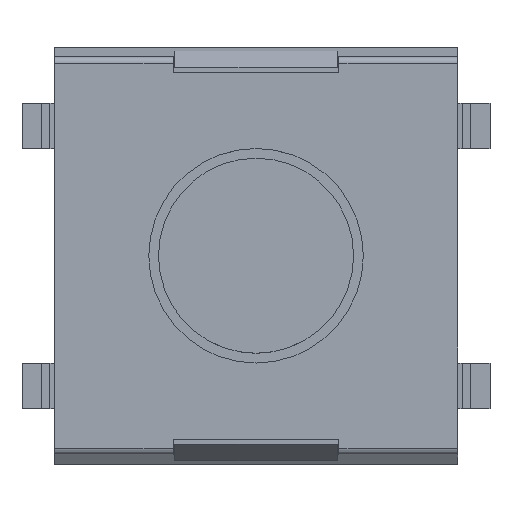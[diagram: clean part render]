
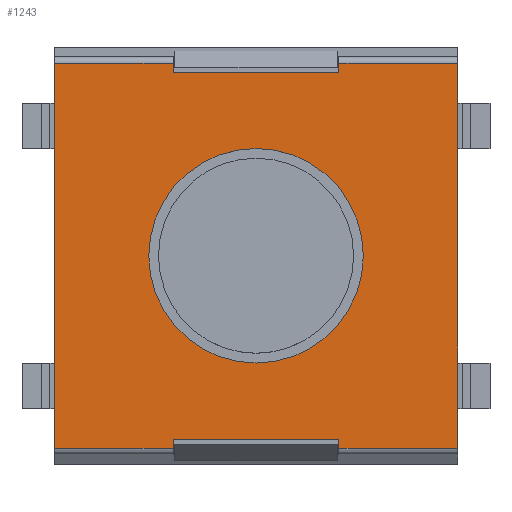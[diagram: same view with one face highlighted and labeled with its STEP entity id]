
A CAD part, top view. The second image highlights one B-rep face of the part: STEP entity #1243.
In plain terms, the highlighted planar face has unit normal (0, 0, 1).
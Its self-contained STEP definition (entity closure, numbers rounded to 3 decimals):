
#8 = CARTESIAN_POINT ( 'NONE',  ( -26.561, 15.86, 1.05 ) ) ;
#39 = EDGE_CURVE ( 'NONE', #3989, #1920, #5464, .T. ) ;
#62 = DIRECTION ( 'NONE',  ( 1., 0., 0. ) ) ;
#116 = LINE ( 'NONE', #456, #4683 ) ;
#150 = DIRECTION ( 'NONE',  ( 0., -1., 0. ) ) ;
#186 = LINE ( 'NONE', #4349, #4623 ) ;
#221 = CARTESIAN_POINT ( 'NONE',  ( -29.111, 15.86, 1.05 ) ) ;
#333 = DIRECTION ( 'NONE',  ( 0., 1., 0. ) ) ;
#356 = LINE ( 'NONE', #1671, #5406 ) ;
#416 = DIRECTION ( 'NONE',  ( 0., 1., 0. ) ) ;
#456 = CARTESIAN_POINT ( 'NONE',  ( -26.561, 9.939, 1.05 ) ) ;
#475 = ORIENTED_EDGE ( 'NONE', *, *, #4583, .F. ) ;
#508 = CIRCLE ( 'NONE', #2862, 1.65 ) ;
#558 = CARTESIAN_POINT ( 'NONE',  ( -27.836, 14.55, 1.05 ) ) ;
#564 = VERTEX_POINT ( 'NONE', #4523 ) ;
#584 = DIRECTION ( 'NONE',  ( -1., 0., 0. ) ) ;
#590 = FACE_OUTER_BOUND ( 'NONE', #2131, .T. ) ;
#599 = VECTOR ( 'NONE', #1996, 1000. ) ;
#605 = ORIENTED_EDGE ( 'NONE', *, *, #1647, .F. ) ;
#711 = EDGE_CURVE ( 'NONE', #1772, #3989, #4094, .T. ) ;
#721 = EDGE_CURVE ( 'NONE', #564, #5762, #186, .T. ) ;
#747 = CARTESIAN_POINT ( 'NONE',  ( -26.561, 10.079, 1.05 ) ) ;
#1023 = EDGE_CURVE ( 'NONE', #3478, #1541, #4011, .T. ) ;
#1152 = ORIENTED_EDGE ( 'NONE', *, *, #2480, .F. ) ;
#1229 = CARTESIAN_POINT ( 'NONE',  ( -30.936, 9.939, 1.05 ) ) ;
#1243 = ADVANCED_FACE ( 'NONE', ( #1820, #590 ), #5261, .F. ) ;
#1285 = EDGE_LOOP ( 'NONE', ( #3562, #2771 ) ) ;
#1313 = VECTOR ( 'NONE', #5319, 1000. ) ;
#1485 = EDGE_CURVE ( 'NONE', #1920, #4025, #4673, .T. ) ;
#1490 = ORIENTED_EDGE ( 'NONE', *, *, #2225, .F. ) ;
#1541 = VERTEX_POINT ( 'NONE', #4946 ) ;
#1561 = CARTESIAN_POINT ( 'NONE',  ( -30.936, 9.939, 1.05 ) ) ;
#1647 = EDGE_CURVE ( 'NONE', #3050, #3683, #2418, .T. ) ;
#1671 = CARTESIAN_POINT ( 'NONE',  ( -29.111, 9.939, 1.05 ) ) ;
#1772 = VERTEX_POINT ( 'NONE', #2053 ) ;
#1781 = DIRECTION ( 'NONE',  ( 0., 0., 1. ) ) ;
#1820 = FACE_BOUND ( 'NONE', #1285, .T. ) ;
#1835 = DIRECTION ( 'NONE',  ( 0., -1., 0. ) ) ;
#1915 = VERTEX_POINT ( 'NONE', #5676 ) ;
#1920 = VERTEX_POINT ( 'NONE', #2584 ) ;
#1963 = DIRECTION ( 'NONE',  ( 0., 0., 1. ) ) ;
#1996 = DIRECTION ( 'NONE',  ( 0., -1., 0. ) ) ;
#2037 = ORIENTED_EDGE ( 'NONE', *, *, #4828, .F. ) ;
#2039 = VECTOR ( 'NONE', #4793, 1000. ) ;
#2053 = CARTESIAN_POINT ( 'NONE',  ( -29.111, 9.939, 1.05 ) ) ;
#2118 = VECTOR ( 'NONE', #584, 1000. ) ;
#2131 = EDGE_LOOP ( 'NONE', ( #475, #2037, #605, #2520, #5711, #1490, #2583, #3982, #5117, #3472, #1152, #5596 ) ) ;
#2134 = VERTEX_POINT ( 'NONE', #3342 ) ;
#2143 = VERTEX_POINT ( 'NONE', #5629 ) ;
#2213 = DIRECTION ( 'NONE',  ( 0., -1., 0. ) ) ;
#2225 = EDGE_CURVE ( 'NONE', #4025, #2143, #356, .T. ) ;
#2283 = EDGE_CURVE ( 'NONE', #2143, #1915, #3630, .T. ) ;
#2346 = VECTOR ( 'NONE', #1835, 1000. ) ;
#2418 = LINE ( 'NONE', #5556, #3790 ) ;
#2467 = AXIS2_PLACEMENT_3D ( 'NONE', #2557, #5705, #2924 ) ;
#2480 = EDGE_CURVE ( 'NONE', #5762, #3444, #3298, .T. ) ;
#2520 = ORIENTED_EDGE ( 'NONE', *, *, #4984, .F. ) ;
#2554 = LINE ( 'NONE', #4924, #2346 ) ;
#2557 = CARTESIAN_POINT ( 'NONE',  ( -30.936, 9.939, 1.05 ) ) ;
#2583 = ORIENTED_EDGE ( 'NONE', *, *, #1485, .F. ) ;
#2584 = CARTESIAN_POINT ( 'NONE',  ( -30.936, 15.86, 1.05 ) ) ;
#2591 = CARTESIAN_POINT ( 'NONE',  ( -30.936, 15.72, 1.05 ) ) ;
#2689 = EDGE_CURVE ( 'NONE', #3444, #1772, #2554, .T. ) ;
#2739 = CARTESIAN_POINT ( 'NONE',  ( -30.936, 9.939, 1.05 ) ) ;
#2771 = ORIENTED_EDGE ( 'NONE', *, *, #1023, .F. ) ;
#2812 = DIRECTION ( 'NONE',  ( 1., 0., 0. ) ) ;
#2862 = AXIS2_PLACEMENT_3D ( 'NONE', #4476, #1781, #2213 ) ;
#2894 = LINE ( 'NONE', #4191, #599 ) ;
#2924 = DIRECTION ( 'NONE',  ( 0., 1., 0. ) ) ;
#3050 = VERTEX_POINT ( 'NONE', #8 ) ;
#3298 = LINE ( 'NONE', #3842, #5079 ) ;
#3342 = CARTESIAN_POINT ( 'NONE',  ( -24.736, 9.939, 1.05 ) ) ;
#3408 = DIRECTION ( 'NONE',  ( -1., 0., 0. ) ) ;
#3433 = VECTOR ( 'NONE', #62, 1000. ) ;
#3444 = VERTEX_POINT ( 'NONE', #5459 ) ;
#3472 = ORIENTED_EDGE ( 'NONE', *, *, #2689, .F. ) ;
#3478 = VERTEX_POINT ( 'NONE', #558 ) ;
#3562 = ORIENTED_EDGE ( 'NONE', *, *, #5470, .F. ) ;
#3630 = LINE ( 'NONE', #2591, #1313 ) ;
#3683 = VERTEX_POINT ( 'NONE', #5130 ) ;
#3790 = VECTOR ( 'NONE', #2812, 1000. ) ;
#3842 = CARTESIAN_POINT ( 'NONE',  ( -30.936, 10.079, 1.05 ) ) ;
#3885 = LINE ( 'NONE', #2739, #2118 ) ;
#3982 = ORIENTED_EDGE ( 'NONE', *, *, #39, .F. ) ;
#3989 = VERTEX_POINT ( 'NONE', #4641 ) ;
#4011 = CIRCLE ( 'NONE', #4718, 1.65 ) ;
#4025 = VERTEX_POINT ( 'NONE', #221 ) ;
#4094 = LINE ( 'NONE', #1229, #2039 ) ;
#4134 = CARTESIAN_POINT ( 'NONE',  ( -27.836, 12.9, 1.05 ) ) ;
#4191 = CARTESIAN_POINT ( 'NONE',  ( -24.736, 9.939, 1.05 ) ) ;
#4277 = VECTOR ( 'NONE', #333, 1000. ) ;
#4349 = CARTESIAN_POINT ( 'NONE',  ( -26.561, 9.939, 1.05 ) ) ;
#4399 = CARTESIAN_POINT ( 'NONE',  ( -30.936, 15.86, 1.05 ) ) ;
#4476 = CARTESIAN_POINT ( 'NONE',  ( -27.836, 12.9, 1.05 ) ) ;
#4523 = CARTESIAN_POINT ( 'NONE',  ( -26.561, 9.939, 1.05 ) ) ;
#4583 = EDGE_CURVE ( 'NONE', #2134, #564, #3885, .T. ) ;
#4623 = VECTOR ( 'NONE', #416, 1000. ) ;
#4628 = DIRECTION ( 'NONE',  ( 0., -1., 0. ) ) ;
#4641 = CARTESIAN_POINT ( 'NONE',  ( -30.936, 9.939, 1.05 ) ) ;
#4673 = LINE ( 'NONE', #4399, #3433 ) ;
#4683 = VECTOR ( 'NONE', #4889, 1000. ) ;
#4718 = AXIS2_PLACEMENT_3D ( 'NONE', #4134, #1963, #150 ) ;
#4793 = DIRECTION ( 'NONE',  ( -1., 0., 0. ) ) ;
#4828 = EDGE_CURVE ( 'NONE', #3683, #2134, #2894, .T. ) ;
#4889 = DIRECTION ( 'NONE',  ( 0., 1., 0. ) ) ;
#4924 = CARTESIAN_POINT ( 'NONE',  ( -29.111, 9.939, 1.05 ) ) ;
#4946 = CARTESIAN_POINT ( 'NONE',  ( -27.836, 11.25, 1.05 ) ) ;
#4984 = EDGE_CURVE ( 'NONE', #1915, #3050, #116, .T. ) ;
#5079 = VECTOR ( 'NONE', #3408, 1000. ) ;
#5117 = ORIENTED_EDGE ( 'NONE', *, *, #711, .F. ) ;
#5130 = CARTESIAN_POINT ( 'NONE',  ( -24.736, 15.86, 1.05 ) ) ;
#5261 = PLANE ( 'NONE',  #2467 ) ;
#5319 = DIRECTION ( 'NONE',  ( 1., 0., 0. ) ) ;
#5406 = VECTOR ( 'NONE', #4628, 1000. ) ;
#5459 = CARTESIAN_POINT ( 'NONE',  ( -29.111, 10.079, 1.05 ) ) ;
#5464 = LINE ( 'NONE', #1561, #4277 ) ;
#5470 = EDGE_CURVE ( 'NONE', #1541, #3478, #508, .T. ) ;
#5556 = CARTESIAN_POINT ( 'NONE',  ( -30.936, 15.86, 1.05 ) ) ;
#5596 = ORIENTED_EDGE ( 'NONE', *, *, #721, .F. ) ;
#5629 = CARTESIAN_POINT ( 'NONE',  ( -29.111, 15.72, 1.05 ) ) ;
#5676 = CARTESIAN_POINT ( 'NONE',  ( -26.561, 15.72, 1.05 ) ) ;
#5705 = DIRECTION ( 'NONE',  ( 0., 0., -1. ) ) ;
#5711 = ORIENTED_EDGE ( 'NONE', *, *, #2283, .F. ) ;
#5762 = VERTEX_POINT ( 'NONE', #747 ) ;
